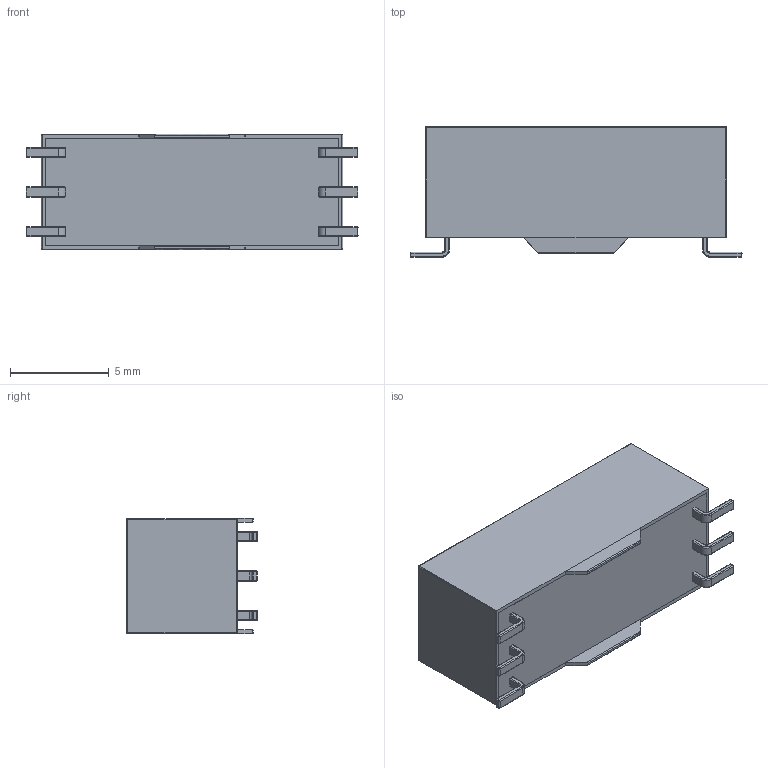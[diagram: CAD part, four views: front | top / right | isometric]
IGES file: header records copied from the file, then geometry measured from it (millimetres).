
Start section: SolidWorks IGES file using analytic representation for surfaces
Global section: file name: T:\Relays in Solidworks\Batch 1\200-2-A.IGS; native system: SolidWorks 2009; preprocessor: SolidWorks 2009; author: alex.leming; date: 100629.132338; units: inch
Bounding box: 16.8 x 6.6 x 5.85 mm (x, y, z)
Surface area: 1052.3 mm2 (no closed solid volume)
Topology: 0 solids, 0 shells, 499 faces, 3476 edges, 3446 vertices
Faces by surface type: bspline 339, revolution 160
